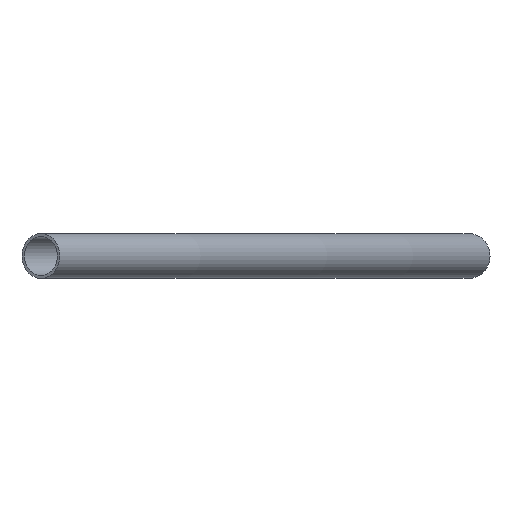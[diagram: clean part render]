
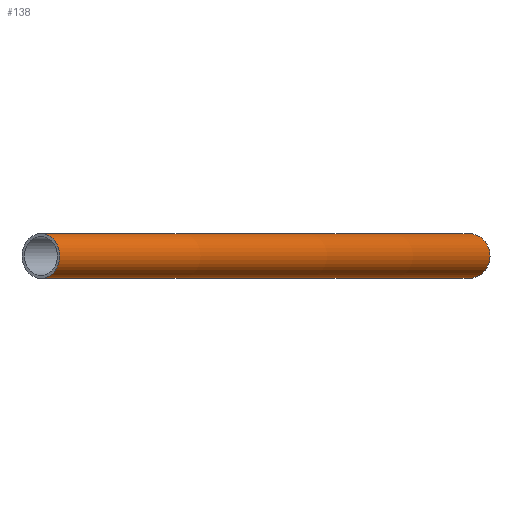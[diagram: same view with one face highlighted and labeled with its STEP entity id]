
A CAD part, left-side view. The second image highlights one B-rep face of the part: STEP entity #138.
In plain terms, the highlighted toroidal (fillet/blend) face has major radius 4399.95 mm and minor radius 21.2 mm.
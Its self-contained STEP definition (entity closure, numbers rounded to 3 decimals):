
#64=ORIENTED_EDGE('',*,*,#80,.F.);
#65=ORIENTED_EDGE('',*,*,#81,.F.);
#72=CIRCLE('',#129,21.2);
#73=CIRCLE('',#130,21.2);
#76=VERTEX_POINT('',#117);
#77=VERTEX_POINT('',#119);
#80=EDGE_CURVE('',#76,#76,#72,.T.);
#81=EDGE_CURVE('',#77,#77,#73,.T.);
#84=EDGE_LOOP('',(#64));
#85=EDGE_LOOP('',(#65));
#92=FACE_BOUND('',#84,.T.);
#93=FACE_BOUND('',#85,.T.);
#100=DIRECTION('',(0.,0.,1.));
#101=DIRECTION('',(1.,0.,0.));
#102=DIRECTION('',(0.937,-0.349,0.));
#103=DIRECTION('',(7.396,19.868,0.));
#104=DIRECTION('',(-0.845,0.535,0.));
#105=DIRECTION('',(-11.342,-17.911,0.));
#116=CARTESIAN_POINT('',(-17263.726,14550.703,0.));
#117=CARTESIAN_POINT('',(-18791.409,10447.091,0.));
#118=CARTESIAN_POINT('',(-18798.806,10427.223,0.));
#119=CARTESIAN_POINT('',(-19629.094,10815.519,0.));
#120=CARTESIAN_POINT('',(-19617.752,10833.43,0.));
#128=AXIS2_PLACEMENT_3D('',#116,#100,#101);
#129=AXIS2_PLACEMENT_3D('',#118,#102,#103);
#130=AXIS2_PLACEMENT_3D('',#120,#104,#105);
#136=TOROIDAL_SURFACE('',#128,4399.949,21.2);
#138=ADVANCED_FACE('',(#92,#93),#136,.T.);
